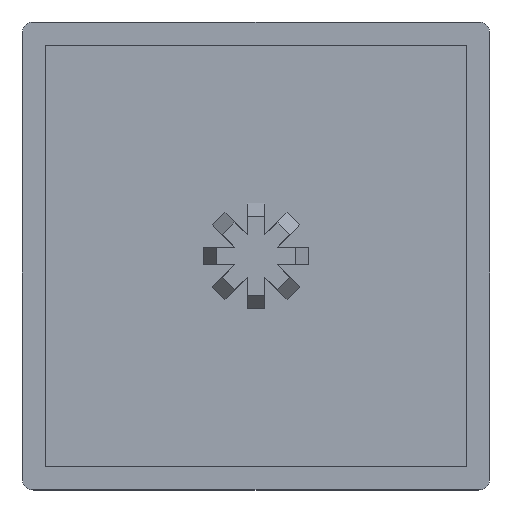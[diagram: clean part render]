
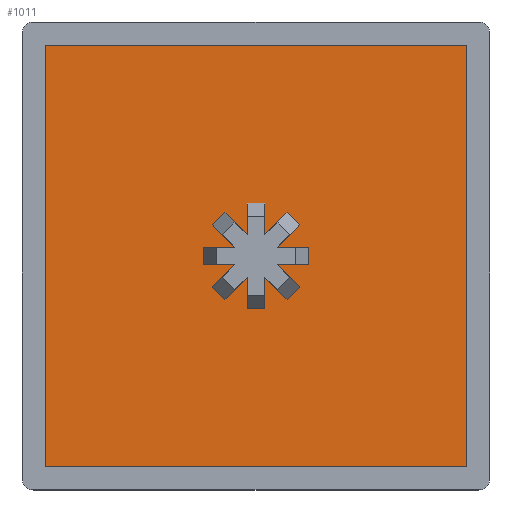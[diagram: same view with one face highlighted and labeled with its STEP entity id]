
A CAD part, top view. The second image highlights one B-rep face of the part: STEP entity #1011.
In plain terms, the highlighted planar face has unit normal (0, 0, 1).
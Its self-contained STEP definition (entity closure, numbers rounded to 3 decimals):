
#43=FACE_BOUND('',#130,.T.);
#73=FACE_OUTER_BOUND('',#129,.T.);
#129=EDGE_LOOP('',(#771,#772,#773,#774));
#130=EDGE_LOOP('',(#775,#776,#777,#778,#779,#780,#781,#782,#783,#784,#785,
#786,#787,#788,#789,#790,#791,#792,#793,#794,#795,#796,#797,#798));
#164=LINE('',#1401,#292);
#168=LINE('',#1408,#296);
#174=LINE('',#1422,#302);
#178=LINE('',#1429,#306);
#184=LINE('',#1443,#312);
#188=LINE('',#1450,#316);
#194=LINE('',#1464,#322);
#198=LINE('',#1471,#326);
#204=LINE('',#1485,#332);
#208=LINE('',#1492,#336);
#214=LINE('',#1506,#342);
#218=LINE('',#1513,#346);
#224=LINE('',#1527,#352);
#227=LINE('',#1531,#355);
#233=LINE('',#1545,#361);
#237=LINE('',#1552,#365);
#238=LINE('',#1556,#366);
#242=LINE('',#1564,#370);
#245=LINE('',#1570,#373);
#248=LINE('',#1575,#376);
#250=LINE('',#1579,#378);
#251=LINE('',#1580,#379);
#252=LINE('',#1581,#380);
#253=LINE('',#1582,#381);
#254=LINE('',#1583,#382);
#255=LINE('',#1584,#383);
#256=LINE('',#1585,#384);
#257=LINE('',#1586,#385);
#292=VECTOR('',#1124,1.5);
#296=VECTOR('',#1130,2.689);
#302=VECTOR('',#1140,1.5);
#306=VECTOR('',#1146,2.689);
#312=VECTOR('',#1156,1.5);
#316=VECTOR('',#1162,2.689);
#322=VECTOR('',#1172,1.5);
#326=VECTOR('',#1178,2.689);
#332=VECTOR('',#1188,1.5);
#336=VECTOR('',#1194,2.689);
#342=VECTOR('',#1204,2.689);
#346=VECTOR('',#1210,1.5);
#352=VECTOR('',#1220,1.5);
#355=VECTOR('',#1225,2.689);
#361=VECTOR('',#1235,1.5);
#365=VECTOR('',#1241,2.689);
#366=VECTOR('',#1244,36.);
#370=VECTOR('',#1250,36.);
#373=VECTOR('',#1255,36.);
#376=VECTOR('',#1260,36.);
#378=VECTOR('',#1264,2.689);
#379=VECTOR('',#1265,2.689);
#380=VECTOR('',#1266,2.689);
#381=VECTOR('',#1267,2.689);
#382=VECTOR('',#1268,2.689);
#383=VECTOR('',#1269,2.689);
#384=VECTOR('',#1270,2.689);
#385=VECTOR('',#1271,2.689);
#419=VERTEX_POINT('',#1398);
#420=VERTEX_POINT('',#1400);
#422=VERTEX_POINT('',#1406);
#427=VERTEX_POINT('',#1419);
#428=VERTEX_POINT('',#1421);
#430=VERTEX_POINT('',#1427);
#435=VERTEX_POINT('',#1440);
#436=VERTEX_POINT('',#1442);
#438=VERTEX_POINT('',#1448);
#443=VERTEX_POINT('',#1461);
#444=VERTEX_POINT('',#1463);
#446=VERTEX_POINT('',#1469);
#451=VERTEX_POINT('',#1482);
#452=VERTEX_POINT('',#1484);
#454=VERTEX_POINT('',#1490);
#459=VERTEX_POINT('',#1503);
#460=VERTEX_POINT('',#1505);
#462=VERTEX_POINT('',#1511);
#467=VERTEX_POINT('',#1524);
#468=VERTEX_POINT('',#1526);
#473=VERTEX_POINT('',#1542);
#474=VERTEX_POINT('',#1544);
#476=VERTEX_POINT('',#1550);
#477=VERTEX_POINT('',#1554);
#478=VERTEX_POINT('',#1555);
#481=VERTEX_POINT('',#1563);
#483=VERTEX_POINT('',#1569);
#485=VERTEX_POINT('',#1578);
#512=EDGE_CURVE('',#419,#420,#164,.T.);
#516=EDGE_CURVE('',#422,#419,#168,.T.);
#522=EDGE_CURVE('',#427,#428,#174,.T.);
#526=EDGE_CURVE('',#430,#427,#178,.T.);
#532=EDGE_CURVE('',#435,#436,#184,.T.);
#536=EDGE_CURVE('',#438,#435,#188,.T.);
#542=EDGE_CURVE('',#443,#444,#194,.T.);
#546=EDGE_CURVE('',#446,#443,#198,.T.);
#552=EDGE_CURVE('',#451,#452,#204,.T.);
#556=EDGE_CURVE('',#454,#451,#208,.T.);
#562=EDGE_CURVE('',#459,#460,#214,.T.);
#566=EDGE_CURVE('',#462,#459,#218,.T.);
#572=EDGE_CURVE('',#467,#468,#224,.T.);
#575=EDGE_CURVE('',#460,#467,#227,.T.);
#581=EDGE_CURVE('',#473,#474,#233,.T.);
#585=EDGE_CURVE('',#476,#473,#237,.T.);
#586=EDGE_CURVE('',#477,#478,#238,.T.);
#590=EDGE_CURVE('',#478,#481,#242,.T.);
#593=EDGE_CURVE('',#481,#483,#245,.T.);
#596=EDGE_CURVE('',#483,#477,#248,.T.);
#598=EDGE_CURVE('',#485,#462,#250,.T.);
#599=EDGE_CURVE('',#452,#485,#251,.T.);
#600=EDGE_CURVE('',#444,#454,#252,.T.);
#601=EDGE_CURVE('',#436,#446,#253,.T.);
#602=EDGE_CURVE('',#428,#438,#254,.T.);
#603=EDGE_CURVE('',#420,#430,#255,.T.);
#604=EDGE_CURVE('',#474,#422,#256,.T.);
#605=EDGE_CURVE('',#468,#476,#257,.T.);
#771=ORIENTED_EDGE('',*,*,#586,.T.);
#772=ORIENTED_EDGE('',*,*,#590,.T.);
#773=ORIENTED_EDGE('',*,*,#593,.T.);
#774=ORIENTED_EDGE('',*,*,#596,.T.);
#775=ORIENTED_EDGE('',*,*,#562,.F.);
#776=ORIENTED_EDGE('',*,*,#566,.F.);
#777=ORIENTED_EDGE('',*,*,#598,.F.);
#778=ORIENTED_EDGE('',*,*,#599,.F.);
#779=ORIENTED_EDGE('',*,*,#552,.F.);
#780=ORIENTED_EDGE('',*,*,#556,.F.);
#781=ORIENTED_EDGE('',*,*,#600,.F.);
#782=ORIENTED_EDGE('',*,*,#542,.F.);
#783=ORIENTED_EDGE('',*,*,#546,.F.);
#784=ORIENTED_EDGE('',*,*,#601,.F.);
#785=ORIENTED_EDGE('',*,*,#532,.F.);
#786=ORIENTED_EDGE('',*,*,#536,.F.);
#787=ORIENTED_EDGE('',*,*,#602,.F.);
#788=ORIENTED_EDGE('',*,*,#522,.F.);
#789=ORIENTED_EDGE('',*,*,#526,.F.);
#790=ORIENTED_EDGE('',*,*,#603,.F.);
#791=ORIENTED_EDGE('',*,*,#512,.F.);
#792=ORIENTED_EDGE('',*,*,#516,.F.);
#793=ORIENTED_EDGE('',*,*,#604,.F.);
#794=ORIENTED_EDGE('',*,*,#581,.F.);
#795=ORIENTED_EDGE('',*,*,#585,.F.);
#796=ORIENTED_EDGE('',*,*,#605,.F.);
#797=ORIENTED_EDGE('',*,*,#572,.F.);
#798=ORIENTED_EDGE('',*,*,#575,.F.);
#967=PLANE('',#1069);
#1011=ADVANCED_FACE('',(#73,#43),#967,.T.);
#1069=AXIS2_PLACEMENT_3D('',#1577,#1262,#1263);
#1124=DIRECTION('',(-0.707,-0.707,0.));
#1130=DIRECTION('',(-0.707,0.707,0.));
#1140=DIRECTION('',(0.,-1.,0.));
#1146=DIRECTION('',(-1.,0.,0.));
#1156=DIRECTION('',(0.707,-0.707,0.));
#1162=DIRECTION('',(-0.707,-0.707,0.));
#1172=DIRECTION('',(1.,0.,0.));
#1178=DIRECTION('',(0.,-1.,0.));
#1188=DIRECTION('',(0.707,0.707,0.));
#1194=DIRECTION('',(0.707,-0.707,0.));
#1204=DIRECTION('',(-1.,0.,0.));
#1210=DIRECTION('',(0.,1.,0.));
#1220=DIRECTION('',(-0.707,0.707,0.));
#1225=DIRECTION('',(0.707,0.707,0.));
#1235=DIRECTION('',(-1.,0.,0.));
#1241=DIRECTION('',(0.,1.,0.));
#1244=DIRECTION('',(0.,1.,0.));
#1250=DIRECTION('',(-1.,0.,0.));
#1255=DIRECTION('',(0.,-1.,0.));
#1260=DIRECTION('',(1.,0.,0.));
#1262=DIRECTION('center_axis',(0.,0.,
1.));
#1263=DIRECTION('ref_axis',(1.,0.,0.));
#1264=DIRECTION('',(1.,0.,0.));
#1265=DIRECTION('',(-0.707,0.707,0.));
#1266=DIRECTION('',(0.,1.,0.));
#1267=DIRECTION('',(0.707,0.707,0.));
#1268=DIRECTION('',(1.,0.,0.));
#1269=DIRECTION('',(0.707,-0.707,0.));
#1270=DIRECTION('',(0.,-1.,0.));
#1271=DIRECTION('',(-0.707,-0.707,0.));
#1398=CARTESIAN_POINT('',(1.312,-11.918,1.));
#1400=CARTESIAN_POINT('',(0.252,-12.979,1.));
#1401=CARTESIAN_POINT('',(1.047,-12.183,1.));
#1406=CARTESIAN_POINT('',(3.214,-13.82,1.));
#1408=CARTESIAN_POINT('',(3.854,-14.46,1.));
#1419=CARTESIAN_POINT('',(-0.536,-14.881,1.));
#1421=CARTESIAN_POINT('',(-0.536,-16.381,1.));
#1422=CARTESIAN_POINT('',(-0.536,-15.256,1.));
#1427=CARTESIAN_POINT('',(2.153,-14.881,1.));
#1429=CARTESIAN_POINT('',(3.059,-14.881,1.));
#1440=CARTESIAN_POINT('',(0.252,-18.282,1.));
#1442=CARTESIAN_POINT('',(1.312,-19.343,1.));
#1443=CARTESIAN_POINT('',(0.517,-18.547,1.));
#1448=CARTESIAN_POINT('',(2.153,-16.381,1.));
#1450=CARTESIAN_POINT('',(2.793,-15.74,1.));
#1461=CARTESIAN_POINT('',(3.214,-20.131,1.));
#1463=CARTESIAN_POINT('',(4.714,-20.131,1.));
#1464=CARTESIAN_POINT('',(3.589,-20.131,1.));
#1469=CARTESIAN_POINT('',(3.214,-17.441,1.));
#1471=CARTESIAN_POINT('',(3.214,-16.536,1.));
#1482=CARTESIAN_POINT('',(6.616,-19.343,1.));
#1484=CARTESIAN_POINT('',(7.676,-18.282,1.));
#1485=CARTESIAN_POINT('',(6.881,-19.078,1.));
#1490=CARTESIAN_POINT('',(4.714,-17.441,1.));
#1492=CARTESIAN_POINT('',(4.074,-16.801,1.));
#1503=CARTESIAN_POINT('',(8.464,-14.881,1.));
#1505=CARTESIAN_POINT('',(5.775,-14.881,1.));
#1506=CARTESIAN_POINT('',(6.214,-14.881,1.));
#1511=CARTESIAN_POINT('',(8.464,-16.381,1.));
#1513=CARTESIAN_POINT('',(8.464,-16.006,1.));
#1524=CARTESIAN_POINT('',(7.676,-12.979,1.));
#1526=CARTESIAN_POINT('',(6.616,-11.918,1.));
#1527=CARTESIAN_POINT('',(7.411,-12.714,1.));
#1531=CARTESIAN_POINT('',(5.134,-15.521,1.));
#1542=CARTESIAN_POINT('',(4.714,-11.131,1.));
#1544=CARTESIAN_POINT('',(3.214,-11.131,1.));
#1545=CARTESIAN_POINT('',(4.339,-11.131,1.));
#1550=CARTESIAN_POINT('',(4.714,-13.82,1.));
#1552=CARTESIAN_POINT('',(4.714,-14.725,1.));
#1554=CARTESIAN_POINT('',(21.964,-33.631,1.));
#1555=CARTESIAN_POINT('',(21.964,2.369,1.));
#1556=CARTESIAN_POINT('',(21.964,-33.631,1.));
#1563=CARTESIAN_POINT('',(-14.036,2.369,1.));
#1564=CARTESIAN_POINT('',(21.964,2.369,1.));
#1569=CARTESIAN_POINT('',(-14.036,-33.631,1.));
#1570=CARTESIAN_POINT('',(-14.036,2.369,1.));
#1575=CARTESIAN_POINT('',(-14.036,-33.631,1.));
#1577=CARTESIAN_POINT('Origin',(3.964,-15.631,1.));
#1578=CARTESIAN_POINT('',(5.775,-16.381,1.));
#1579=CARTESIAN_POINT('',(4.869,-16.381,1.));
#1580=CARTESIAN_POINT('',(6.085,-16.691,1.));
#1581=CARTESIAN_POINT('',(4.714,-17.881,1.));
#1582=CARTESIAN_POINT('',(2.903,-17.752,1.));
#1583=CARTESIAN_POINT('',(1.714,-16.381,1.));
#1584=CARTESIAN_POINT('',(1.843,-14.57,1.));
#1585=CARTESIAN_POINT('',(3.214,-13.381,1.));
#1586=CARTESIAN_POINT('',(5.025,-13.509,1.));
